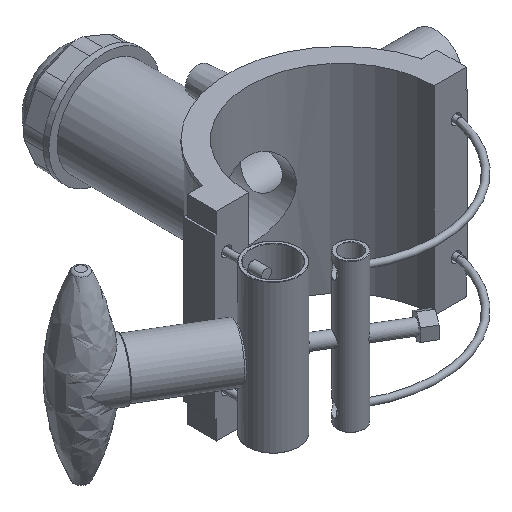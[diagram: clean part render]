
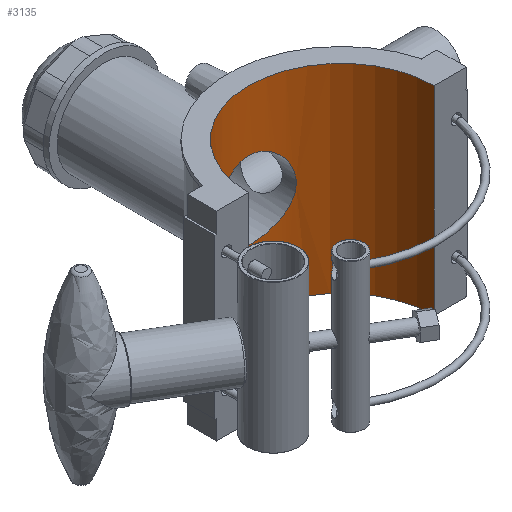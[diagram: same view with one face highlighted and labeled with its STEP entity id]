
A CAD part, isometric view. The second image highlights one B-rep face of the part: STEP entity #3135.
In plain terms, the highlighted cylindrical face has radius 55 mm (diameter 110 mm), a partial arc.
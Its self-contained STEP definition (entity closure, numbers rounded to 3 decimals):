
#59=B_SPLINE_CURVE_WITH_KNOTS('',3,(#4559,#4560,#4561,#4562,#4563,#4564,
#4565,#4566,#4567,#4568,#4569,#4570,#4571,#4572,#4573,#4574,#4575,#4576,
#4577,#4578,#4579,#4580,#4581,#4582,#4583,#4584,#4585,#4586,#4587,#4588,
#4589,#4590,#4591,#4592,#4593,#4594,#4595,#4596,#4597,#4598,#4599,#4600,
#4601,#4602,#4603,#4604,#4605,#4606,#4607,#4608),.UNSPECIFIED.,.F.,.F.,
(4,2,2,2,2,2,2,2,2,2,2,2,2,2,2,2,2,2,2,2,2,2,2,2,4),(0.,0.441,
0.883,1.324,1.765,2.206,2.647,
3.088,3.529,3.969,4.41,4.851,
5.292,5.733,6.175,6.616,7.057,
7.499,7.94,8.381,8.823,9.264,
9.704,10.145,10.586),.UNSPECIFIED.);
#60=B_SPLINE_CURVE_WITH_KNOTS('',3,(#4609,#4610,#4611,#4612,#4613,#4614,
#4615,#4616,#4617,#4618,#4619,#4620,#4621,#4622,#4623,#4624,#4625,#4626),
 .UNSPECIFIED.,.F.,.F.,(4,2,2,2,2,2,2,2,4),(10.586,11.027,
11.468,11.908,12.349,12.791,13.232,
13.673,14.115),.UNSPECIFIED.);
#175=FACE_BOUND('',#604,.T.);
#403=FACE_OUTER_BOUND('',#603,.T.);
#603=EDGE_LOOP('',(#2616,#2617,#2618,#2619));
#604=EDGE_LOOP('',(#2620,#2621));
#799=CIRCLE('',#3434,55.);
#800=CIRCLE('',#3436,55.);
#1006=LINE('',#5830,#1211);
#1011=LINE('',#5839,#1216);
#1211=VECTOR('',#4114,10.);
#1216=VECTOR('',#4121,10.);
#1300=VERTEX_POINT('',#4556);
#1301=VERTEX_POINT('',#4558);
#1461=VERTEX_POINT('',#5827);
#1462=VERTEX_POINT('',#5829);
#1464=VERTEX_POINT('',#5835);
#1465=VERTEX_POINT('',#5837);
#1620=EDGE_CURVE('',#1301,#1300,#59,.T.);
#1621=EDGE_CURVE('',#1300,#1301,#60,.T.);
#1865=EDGE_CURVE('',#1462,#1461,#1006,.T.);
#1870=EDGE_CURVE('',#1464,#1465,#1011,.T.);
#1872=EDGE_CURVE('',#1464,#1461,#799,.T.);
#1873=EDGE_CURVE('',#1462,#1465,#800,.T.);
#2616=ORIENTED_EDGE('',*,*,#1870,.T.);
#2617=ORIENTED_EDGE('',*,*,#1873,.F.);
#2618=ORIENTED_EDGE('',*,*,#1865,.T.);
#2619=ORIENTED_EDGE('',*,*,#1872,.F.);
#2620=ORIENTED_EDGE('',*,*,#1620,.T.);
#2621=ORIENTED_EDGE('',*,*,#1621,.T.);
#3001=CYLINDRICAL_SURFACE('',#3435,55.);
#3135=ADVANCED_FACE('',(#403,#175),#3001,.F.);
#3434=AXIS2_PLACEMENT_3D('',#5843,#4127,#4128);
#3435=AXIS2_PLACEMENT_3D('',#5844,#4129,#4130);
#3436=AXIS2_PLACEMENT_3D('',#5845,#4131,#4132);
#4114=DIRECTION('',(0.,0.,1.));
#4121=DIRECTION('',(0.,0.,-1.));
#4127=DIRECTION('center_axis',(0.,0.,-1.));
#4128=DIRECTION('ref_axis',(1.,0.,0.));
#4129=DIRECTION('center_axis',(0.,0.,1.));
#4130=DIRECTION('ref_axis',(1.,0.,0.));
#4131=DIRECTION('center_axis',(0.,0.,1.));
#4132=DIRECTION('ref_axis',(1.,0.,0.));
#4556=CARTESIAN_POINT('',(0.,55.,-23.1));
#4558=CARTESIAN_POINT('',(-23.1,49.914,0.));
#4559=CARTESIAN_POINT('Ctrl Pts',(-23.1,49.914,0.));
#4560=CARTESIAN_POINT('Ctrl Pts',(-23.1,49.914,1.471));
#4561=CARTESIAN_POINT('Ctrl Pts',(-22.957,49.981,2.986));
#4562=CARTESIAN_POINT('Ctrl Pts',(-22.363,50.249,5.986));
#4563=CARTESIAN_POINT('Ctrl Pts',(-21.913,50.45,7.471));
#4564=CARTESIAN_POINT('Ctrl Pts',(-20.729,50.948,10.31));
#4565=CARTESIAN_POINT('Ctrl Pts',(-19.995,51.245,11.666));
#4566=CARTESIAN_POINT('Ctrl Pts',(-18.306,51.872,14.17));
#4567=CARTESIAN_POINT('Ctrl Pts',(-17.35,52.203,15.318));
#4568=CARTESIAN_POINT('Ctrl Pts',(-15.319,52.834,17.349));
#4569=CARTESIAN_POINT('Ctrl Pts',(-14.172,53.158,18.304));
#4570=CARTESIAN_POINT('Ctrl Pts',(-11.668,53.764,19.994));
#4571=CARTESIAN_POINT('Ctrl Pts',(-10.311,54.044,20.728));
#4572=CARTESIAN_POINT('Ctrl Pts',(-7.47,54.509,21.913));
#4573=CARTESIAN_POINT('Ctrl Pts',(-5.983,54.694,22.364));
#4574=CARTESIAN_POINT('Ctrl Pts',(-2.983,54.94,22.958));
#4575=CARTESIAN_POINT('Ctrl Pts',(-1.469,55.,23.1));
#4576=CARTESIAN_POINT('Ctrl Pts',(1.469,55.,23.1));
#4577=CARTESIAN_POINT('Ctrl Pts',(2.983,54.94,22.958));
#4578=CARTESIAN_POINT('Ctrl Pts',(5.983,54.694,22.364));
#4579=CARTESIAN_POINT('Ctrl Pts',(7.47,54.509,21.913));
#4580=CARTESIAN_POINT('Ctrl Pts',(10.311,54.044,20.728));
#4581=CARTESIAN_POINT('Ctrl Pts',(11.668,53.764,19.994));
#4582=CARTESIAN_POINT('Ctrl Pts',(14.172,53.158,18.304));
#4583=CARTESIAN_POINT('Ctrl Pts',(15.319,52.834,17.349));
#4584=CARTESIAN_POINT('Ctrl Pts',(17.35,52.203,15.318));
#4585=CARTESIAN_POINT('Ctrl Pts',(18.306,51.872,14.17));
#4586=CARTESIAN_POINT('Ctrl Pts',(19.995,51.245,11.666));
#4587=CARTESIAN_POINT('Ctrl Pts',(20.729,50.948,10.31));
#4588=CARTESIAN_POINT('Ctrl Pts',(21.913,50.45,7.471));
#4589=CARTESIAN_POINT('Ctrl Pts',(22.363,50.249,5.986));
#4590=CARTESIAN_POINT('Ctrl Pts',(22.957,49.981,2.986));
#4591=CARTESIAN_POINT('Ctrl Pts',(23.1,49.914,1.471));
#4592=CARTESIAN_POINT('Ctrl Pts',(23.1,49.914,-1.471));
#4593=CARTESIAN_POINT('Ctrl Pts',(22.957,49.981,-2.986));
#4594=CARTESIAN_POINT('Ctrl Pts',(22.363,50.249,-5.986));
#4595=CARTESIAN_POINT('Ctrl Pts',(21.913,50.45,-7.471));
#4596=CARTESIAN_POINT('Ctrl Pts',(20.729,50.948,-10.31));
#4597=CARTESIAN_POINT('Ctrl Pts',(19.995,51.245,-11.666));
#4598=CARTESIAN_POINT('Ctrl Pts',(18.306,51.872,-14.17));
#4599=CARTESIAN_POINT('Ctrl Pts',(17.35,52.203,-15.318));
#4600=CARTESIAN_POINT('Ctrl Pts',(15.319,52.834,-17.349));
#4601=CARTESIAN_POINT('Ctrl Pts',(14.172,53.158,-18.304));
#4602=CARTESIAN_POINT('Ctrl Pts',(11.668,53.764,-19.994));
#4603=CARTESIAN_POINT('Ctrl Pts',(10.311,54.044,-20.728));
#4604=CARTESIAN_POINT('Ctrl Pts',(7.47,54.509,-21.913));
#4605=CARTESIAN_POINT('Ctrl Pts',(5.983,54.694,-22.364));
#4606=CARTESIAN_POINT('Ctrl Pts',(2.983,54.94,-22.958));
#4607=CARTESIAN_POINT('Ctrl Pts',(1.469,55.,-23.1));
#4608=CARTESIAN_POINT('Ctrl Pts',(0.,55.,-23.1));
#4609=CARTESIAN_POINT('Ctrl Pts',(0.,55.,-23.1));
#4610=CARTESIAN_POINT('Ctrl Pts',(-1.469,55.,-23.1));
#4611=CARTESIAN_POINT('Ctrl Pts',(-2.983,54.94,-22.958));
#4612=CARTESIAN_POINT('Ctrl Pts',(-5.983,54.694,-22.364));
#4613=CARTESIAN_POINT('Ctrl Pts',(-7.47,54.509,-21.913));
#4614=CARTESIAN_POINT('Ctrl Pts',(-10.311,54.044,-20.728));
#4615=CARTESIAN_POINT('Ctrl Pts',(-11.668,53.764,-19.994));
#4616=CARTESIAN_POINT('Ctrl Pts',(-14.172,53.158,-18.304));
#4617=CARTESIAN_POINT('Ctrl Pts',(-15.319,52.834,-17.349));
#4618=CARTESIAN_POINT('Ctrl Pts',(-17.35,52.203,-15.318));
#4619=CARTESIAN_POINT('Ctrl Pts',(-18.306,51.872,-14.17));
#4620=CARTESIAN_POINT('Ctrl Pts',(-19.995,51.245,-11.666));
#4621=CARTESIAN_POINT('Ctrl Pts',(-20.729,50.948,-10.31));
#4622=CARTESIAN_POINT('Ctrl Pts',(-21.913,50.45,-7.471));
#4623=CARTESIAN_POINT('Ctrl Pts',(-22.363,50.249,-5.986));
#4624=CARTESIAN_POINT('Ctrl Pts',(-22.957,49.981,-2.986));
#4625=CARTESIAN_POINT('Ctrl Pts',(-23.1,49.914,-1.471));
#4626=CARTESIAN_POINT('Ctrl Pts',(-23.1,49.914,0.));
#5827=CARTESIAN_POINT('',(55.,0.05,59.));
#5829=CARTESIAN_POINT('',(55.,0.05,-59.));
#5830=CARTESIAN_POINT('',(55.,0.05,0.));
#5835=CARTESIAN_POINT('',(-55.,0.05,59.));
#5837=CARTESIAN_POINT('',(-55.,0.05,-59.));
#5839=CARTESIAN_POINT('',(-55.,0.05,0.));
#5843=CARTESIAN_POINT('Origin',(0.,0.,59.));
#5844=CARTESIAN_POINT('Origin',(0.,0.,0.));
#5845=CARTESIAN_POINT('Origin',(0.,0.,-59.));
